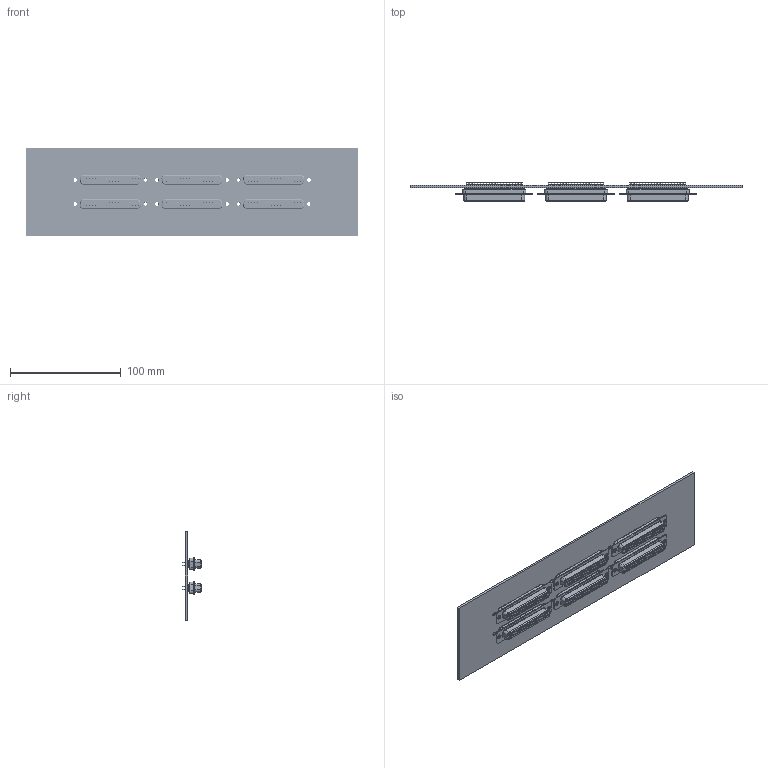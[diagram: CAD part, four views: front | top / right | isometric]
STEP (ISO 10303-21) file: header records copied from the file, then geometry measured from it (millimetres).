
FILE_DESCRIPTION((''),'2;1');
FILE_NAME('CUSTOMER_BOARD_ASSY_ASM','2022-06-21T09:03:55',('kleong'),(''),'CREO PARAMETRIC BY PTC INC, 2021063','CREO PARAMETRIC BY PTC INC, 2021063','');
FILE_SCHEMA(('AUTOMOTIVE_DESIGN { 1 0 10303 214 1 1 1 1 }'));
Products named in the file (1): CUSTOMER_BOARD_ASSY_ASM
Bounding box: 300 x 16.4 x 80 mm (x, y, z)
Volume: 83733.2 mm3; surface area: 72636.2 mm2
Topology: 1 solids, 1 shells, 2772 faces, 6198 edges, 3914 vertices
Faces by surface type: cylinder 1596, plane 588, cone 444, torus 144
Entity records: 98995 total; most frequent: DIRECTION 15623, CARTESIAN_POINT 12900, ORIENTED_EDGE 12396, AXIS2_PLACEMENT_3D 6640, EDGE_CURVE 6198, VERTEX_POINT 3914, CIRCLE 3858, EDGE_LOOP 3738
